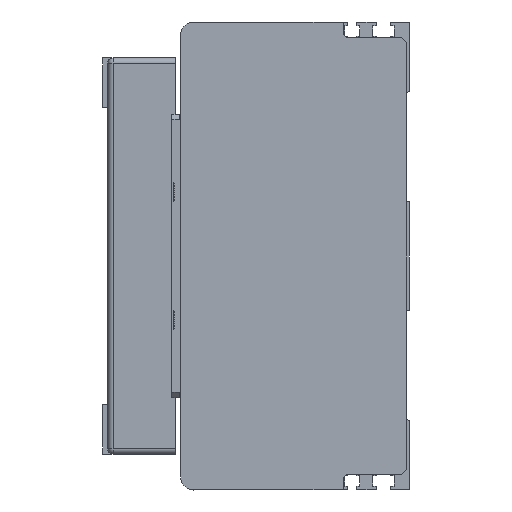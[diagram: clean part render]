
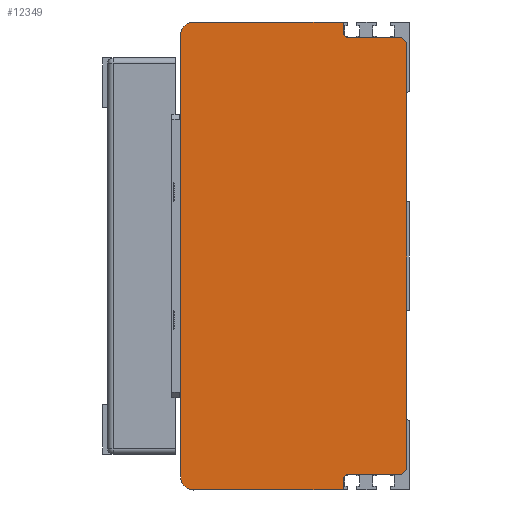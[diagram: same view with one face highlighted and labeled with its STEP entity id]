
A CAD part, left-side view. The second image highlights one B-rep face of the part: STEP entity #12349.
In plain terms, the highlighted planar face has unit normal (-1, 0, 0) as drawn and (0, 0, -1) by its records, which use the part's own axes.
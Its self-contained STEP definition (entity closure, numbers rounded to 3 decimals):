
#921=CIRCLE('',#13184,2.);
#922=CIRCLE('',#13185,5.);
#923=CIRCLE('',#13186,5.);
#924=CIRCLE('',#13187,2.);
#1220=FACE_OUTER_BOUND('',#1970,.T.);
#1970=EDGE_LOOP('',(#8370,#8371,#8372,#8373,#8374,#8375,#8376,#8377,#8378,
#8379,#8380,#8381,#8382,#8383));
#2853=LINE('',#17328,#4026);
#2854=LINE('',#17330,#4027);
#2855=LINE('',#17334,#4028);
#2856=LINE('',#17336,#4029);
#2857=LINE('',#17340,#4030);
#2858=LINE('',#17344,#4031);
#2859=LINE('',#17346,#4032);
#2860=LINE('',#17350,#4033);
#2861=LINE('',#17352,#4034);
#2862=LINE('',#17353,#4035);
#4026=VECTOR('',#14265,2.828);
#4027=VECTOR('',#14266,20.5);
#4028=VECTOR('',#14269,4.);
#4029=VECTOR('',#14270,57.5);
#4030=VECTOR('',#14273,170.);
#4031=VECTOR('',#14276,57.5);
#4032=VECTOR('',#14277,4.);
#4033=VECTOR('',#14280,20.5);
#4034=VECTOR('',#14281,2.828);
#4035=VECTOR('',#14282,164.);
#5223=VERTEX_POINT('',#17326);
#5224=VERTEX_POINT('',#17327);
#5225=VERTEX_POINT('',#17329);
#5226=VERTEX_POINT('',#17331);
#5227=VERTEX_POINT('',#17333);
#5228=VERTEX_POINT('',#17335);
#5229=VERTEX_POINT('',#17337);
#5230=VERTEX_POINT('',#17339);
#5231=VERTEX_POINT('',#17341);
#5232=VERTEX_POINT('',#17343);
#5233=VERTEX_POINT('',#17345);
#5234=VERTEX_POINT('',#17347);
#5235=VERTEX_POINT('',#17349);
#5236=VERTEX_POINT('',#17351);
#6485=EDGE_CURVE('',#5223,#5224,#2853,.T.);
#6486=EDGE_CURVE('',#5223,#5225,#2854,.T.);
#6487=EDGE_CURVE('',#5226,#5225,#921,.T.);
#6488=EDGE_CURVE('',#5226,#5227,#2855,.T.);
#6489=EDGE_CURVE('',#5227,#5228,#2856,.T.);
#6490=EDGE_CURVE('',#5228,#5229,#922,.T.);
#6491=EDGE_CURVE('',#5229,#5230,#2857,.T.);
#6492=EDGE_CURVE('',#5230,#5231,#923,.T.);
#6493=EDGE_CURVE('',#5231,#5232,#2858,.T.);
#6494=EDGE_CURVE('',#5232,#5233,#2859,.T.);
#6495=EDGE_CURVE('',#5234,#5233,#924,.T.);
#6496=EDGE_CURVE('',#5234,#5235,#2860,.T.);
#6497=EDGE_CURVE('',#5236,#5235,#2861,.T.);
#6498=EDGE_CURVE('',#5236,#5224,#2862,.T.);
#8370=ORIENTED_EDGE('',*,*,#6485,.F.);
#8371=ORIENTED_EDGE('',*,*,#6486,.T.);
#8372=ORIENTED_EDGE('',*,*,#6487,.F.);
#8373=ORIENTED_EDGE('',*,*,#6488,.T.);
#8374=ORIENTED_EDGE('',*,*,#6489,.T.);
#8375=ORIENTED_EDGE('',*,*,#6490,.T.);
#8376=ORIENTED_EDGE('',*,*,#6491,.T.);
#8377=ORIENTED_EDGE('',*,*,#6492,.T.);
#8378=ORIENTED_EDGE('',*,*,#6493,.T.);
#8379=ORIENTED_EDGE('',*,*,#6494,.T.);
#8380=ORIENTED_EDGE('',*,*,#6495,.F.);
#8381=ORIENTED_EDGE('',*,*,#6496,.T.);
#8382=ORIENTED_EDGE('',*,*,#6497,.F.);
#8383=ORIENTED_EDGE('',*,*,#6498,.T.);
#11912=PLANE('',#13183);
#12349=ADVANCED_FACE('',(#1220),#11912,.T.);
#13183=AXIS2_PLACEMENT_3D('',#17325,#14263,#14264);
#13184=AXIS2_PLACEMENT_3D('',#17332,#14267,#14268);
#13185=AXIS2_PLACEMENT_3D('',#17338,#14271,#14272);
#13186=AXIS2_PLACEMENT_3D('',#17342,#14274,#14275);
#13187=AXIS2_PLACEMENT_3D('',#17348,#14278,#14279);
#14263=DIRECTION('center_axis',(0.,0.,
-1.));
#14264=DIRECTION('ref_axis',(0.,-1.,0.));
#14265=DIRECTION('',(0.707,-0.707,0.));
#14266=DIRECTION('',(0.,1.,0.));
#14267=DIRECTION('center_axis',(0.,0.,
-1.));
#14268=DIRECTION('ref_axis',(0.707,0.707,0.));
#14269=DIRECTION('',(-1.,0.,0.));
#14270=DIRECTION('',(0.,1.,0.));
#14271=DIRECTION('center_axis',(0.,0.,
-1.));
#14272=DIRECTION('ref_axis',(-1.,0.,0.));
#14273=DIRECTION('',(1.,0.,0.));
#14274=DIRECTION('center_axis',(0.,0.,
-1.));
#14275=DIRECTION('ref_axis',(0.,1.,0.));
#14276=DIRECTION('',(0.,-1.,0.));
#14277=DIRECTION('',(-1.,0.,0.));
#14278=DIRECTION('center_axis',(0.,0.,
-1.));
#14279=DIRECTION('ref_axis',(-0.707,0.707,0.));
#14280=DIRECTION('',(0.,-1.,0.));
#14281=DIRECTION('',(0.707,0.707,0.));
#14282=DIRECTION('',(-1.,0.,0.));
#17325=CARTESIAN_POINT('Origin',(317.669,46.746,-706.483));
#17326=CARTESIAN_POINT('',(-91.,-80.,-706.483));
#17327=CARTESIAN_POINT('',(-89.,-82.,-706.483));
#17328=CARTESIAN_POINT('',(-20.019,-150.981,-706.483));
#17329=CARTESIAN_POINT('',(-91.,-59.5,-706.483));
#17330=CARTESIAN_POINT('',(-91.,-17.627,-706.483));
#17331=CARTESIAN_POINT('',(-93.,-57.5,-706.483));
#17332=CARTESIAN_POINT('Origin',(-93.,-59.5,-706.483));
#17333=CARTESIAN_POINT('',(-97.,-57.5,-706.483));
#17334=CARTESIAN_POINT('',(-91.,-57.5,-706.483));
#17335=CARTESIAN_POINT('',(-97.,0.,-706.483));
#17336=CARTESIAN_POINT('',(-97.,-57.5,-706.483));
#17337=CARTESIAN_POINT('',(-92.,5.,-706.483));
#17338=CARTESIAN_POINT('Origin',(-92.,0.,
-706.483));
#17339=CARTESIAN_POINT('',(78.,5.,-706.483));
#17340=CARTESIAN_POINT('',(-92.,5.,-706.483));
#17341=CARTESIAN_POINT('',(83.,0.,-706.483));
#17342=CARTESIAN_POINT('Origin',(78.,0.,
-706.483));
#17343=CARTESIAN_POINT('',(83.,-57.5,-706.483));
#17344=CARTESIAN_POINT('',(83.,0.,-706.483));
#17345=CARTESIAN_POINT('',(79.,-57.5,-706.483));
#17346=CARTESIAN_POINT('',(83.,-57.5,-706.483));
#17347=CARTESIAN_POINT('',(77.,-59.5,-706.483));
#17348=CARTESIAN_POINT('Origin',(79.,-59.5,-706.483));
#17349=CARTESIAN_POINT('',(77.,-80.,-706.483));
#17350=CARTESIAN_POINT('',(77.,-57.5,-706.483));
#17351=CARTESIAN_POINT('',(75.,-82.,-706.483));
#17352=CARTESIAN_POINT('',(168.354,11.354,-706.483));
#17353=CARTESIAN_POINT('',(81.,-82.,-706.483));
